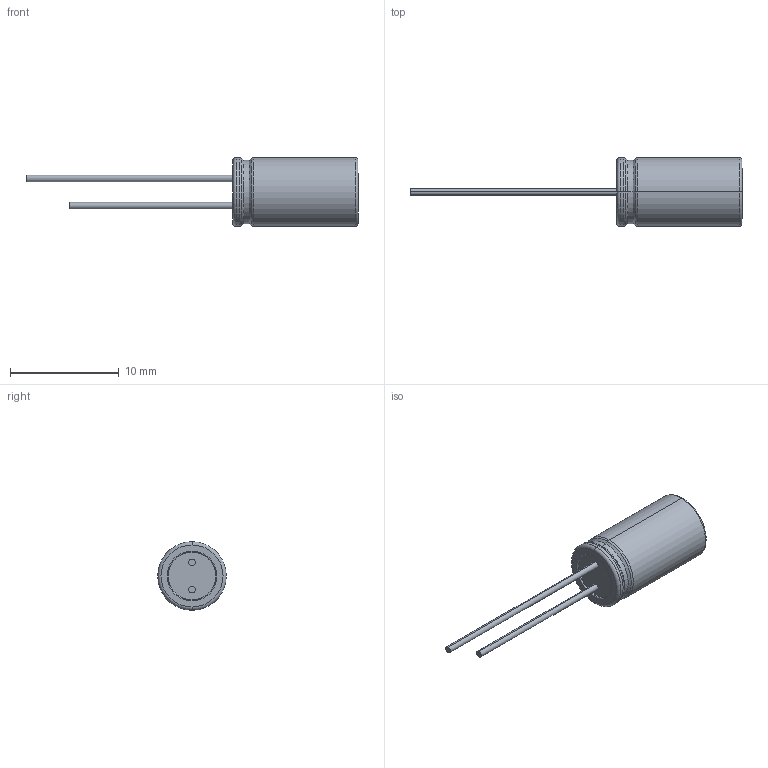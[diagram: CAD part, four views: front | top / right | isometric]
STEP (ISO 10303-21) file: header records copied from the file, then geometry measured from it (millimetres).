
FILE_DESCRIPTION((''),'2;1');
FILE_NAME('HYBRID_RADIAL63X115','2020-05-20T',('xy'),(''),'PRO/ENGINEER BY PARAMETRIC TECHNOLOGY CORPORATION, 2009380','PRO/ENGINEER BY PARAMETRIC TECHNOLOGY CORPORATION, 2009380','');
FILE_SCHEMA(('CONFIG_CONTROL_DESIGN'));
Length unit declared in the file: millimetre
Products named in the file (1): HYBRID_RADIAL63X115
Bounding box: 30.5 x 6.3 x 6.3 mm (x, y, z)
Volume: 360.8 mm3; surface area: 355 mm2
Topology: 1 solids, 1 shells, 415 faces, 1146 edges, 758 vertices
Faces by surface type: plane 387, cylinder 13, torus 11, cone 4
Entity records: 13005 total; most frequent: CARTESIAN_POINT 2328, ORIENTED_EDGE 2292, DIRECTION 2020, EDGE_CURVE 1146, VECTOR 1098, LINE 1098, VERTEX_POINT 758, AXIS2_PLACEMENT_3D 461
